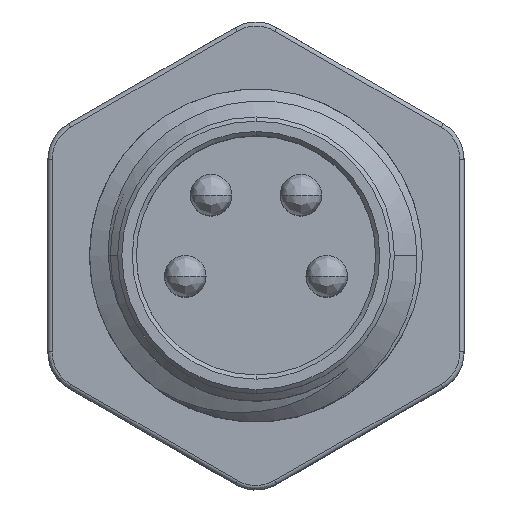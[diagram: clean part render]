
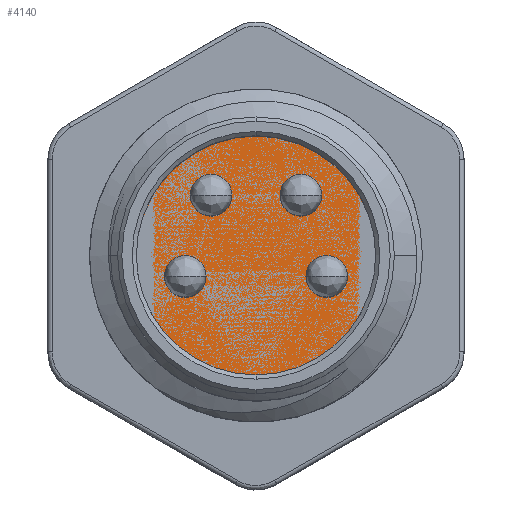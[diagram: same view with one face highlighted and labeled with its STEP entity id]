
A CAD part, top view. The second image highlights one B-rep face of the part: STEP entity #4140.
In plain terms, the highlighted planar face has unit normal (0, 0, 1).
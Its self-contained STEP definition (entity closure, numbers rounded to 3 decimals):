
#81 = CARTESIAN_POINT ( 'NONE',  ( 1.08, 1.45, 1.3 ) ) ;
#131 = DIRECTION ( 'NONE',  ( 0., 0., -1. ) ) ;
#141 = DIRECTION ( 'NONE',  ( -1., 0., 0. ) ) ;
#260 = CIRCLE ( 'NONE', #8844, 0.5 ) ;
#287 = DIRECTION ( 'NONE',  ( 0., 0., 1. ) ) ;
#402 = VERTEX_POINT ( 'NONE', #7624 ) ;
#701 = CIRCLE ( 'NONE', #11229, 2.875 ) ;
#952 = DIRECTION ( 'NONE',  ( -1., 0., 0. ) ) ;
#1028 = EDGE_CURVE ( 'NONE', #6450, #5769, #7962, .T. ) ;
#1204 = CARTESIAN_POINT ( 'NONE',  ( 2.875, 0., 1.3 ) ) ;
#1257 = VERTEX_POINT ( 'NONE', #6549 ) ;
#1284 = DIRECTION ( 'NONE',  ( -1., 0., 0. ) ) ;
#1490 = ORIENTED_EDGE ( 'NONE', *, *, #4811, .F. ) ;
#1644 = CARTESIAN_POINT ( 'NONE',  ( 1.7, -0.5, 1.3 ) ) ;
#1736 = DIRECTION ( 'NONE',  ( 0., 0., -1. ) ) ;
#1842 = FACE_BOUND ( 'NONE', #3734, .T. ) ;
#1990 = CARTESIAN_POINT ( 'NONE',  ( 1.08, 0.95, 1.3 ) ) ;
#2051 = VERTEX_POINT ( 'NONE', #3576 ) ;
#2088 = ORIENTED_EDGE ( 'NONE', *, *, #5567, .F. ) ;
#2205 = DIRECTION ( 'NONE',  ( 0., 0., -1. ) ) ;
#2564 = ORIENTED_EDGE ( 'NONE', *, *, #5073, .F. ) ;
#2594 = CARTESIAN_POINT ( 'NONE',  ( -1.7, 0., 1.3 ) ) ;
#2643 = VERTEX_POINT ( 'NONE', #3598 ) ;
#2678 = DIRECTION ( 'NONE',  ( -1., 0., 0. ) ) ;
#2758 = VERTEX_POINT ( 'NONE', #1204 ) ;
#2804 = DIRECTION ( 'NONE',  ( -1., 0., 0. ) ) ;
#2997 = CIRCLE ( 'NONE', #5763, 0.5 ) ;
#3576 = CARTESIAN_POINT ( 'NONE',  ( -1.08, 0.95, 1.3 ) ) ;
#3598 = CARTESIAN_POINT ( 'NONE',  ( -2.875, 0., 1.3 ) ) ;
#3734 = EDGE_LOOP ( 'NONE', ( #4380, #6619 ) ) ;
#3772 = VERTEX_POINT ( 'NONE', #4981 ) ;
#3777 = DIRECTION ( 'NONE',  ( -1., 0., 0. ) ) ;
#3804 = EDGE_CURVE ( 'NONE', #2758, #2643, #4048, .T. ) ;
#3921 = CIRCLE ( 'NONE', #10660, 0.5 ) ;
#4032 = EDGE_CURVE ( 'NONE', #3772, #2051, #3921, .T. ) ;
#4037 = FACE_OUTER_BOUND ( 'NONE', #4109, .T. ) ;
#4048 = CIRCLE ( 'NONE', #7363, 2.875 ) ;
#4109 = EDGE_LOOP ( 'NONE', ( #7110, #4162 ) ) ;
#4140 = ADVANCED_FACE ( 'NONE', ( #8854, #1842, #6786, #8706, #4037 ), #6561, .F. ) ;
#4162 = ORIENTED_EDGE ( 'NONE', *, *, #10133, .F. ) ;
#4380 = ORIENTED_EDGE ( 'NONE', *, *, #4637, .F. ) ;
#4431 = AXIS2_PLACEMENT_3D ( 'NONE', #7348, #2205, #1284 ) ;
#4637 = EDGE_CURVE ( 'NONE', #6341, #1257, #6917, .T. ) ;
#4656 = CARTESIAN_POINT ( 'NONE',  ( 1.08, 1.45, 1.3 ) ) ;
#4811 = EDGE_CURVE ( 'NONE', #5769, #6450, #10072, .T. ) ;
#4946 = DIRECTION ( 'NONE',  ( -1., 0., 0. ) ) ;
#4981 = CARTESIAN_POINT ( 'NONE',  ( -1.08, 1.95, 1.3 ) ) ;
#5073 = EDGE_CURVE ( 'NONE', #402, #8939, #9989, .T. ) ;
#5329 = AXIS2_PLACEMENT_3D ( 'NONE', #6246, #5406, #141 ) ;
#5406 = DIRECTION ( 'NONE',  ( 0., 0., 1. ) ) ;
#5506 = EDGE_LOOP ( 'NONE', ( #1490, #10391 ) ) ;
#5567 = EDGE_CURVE ( 'NONE', #2051, #3772, #11181, .T. ) ;
#5622 = DIRECTION ( 'NONE',  ( -1., 0., 0. ) ) ;
#5763 = AXIS2_PLACEMENT_3D ( 'NONE', #10475, #11289, #952 ) ;
#5769 = VERTEX_POINT ( 'NONE', #1990 ) ;
#6182 = EDGE_CURVE ( 'NONE', #8939, #402, #2997, .T. ) ;
#6246 = CARTESIAN_POINT ( 'NONE',  ( -1.08, 1.45, 1.3 ) ) ;
#6341 = VERTEX_POINT ( 'NONE', #9042 ) ;
#6450 = VERTEX_POINT ( 'NONE', #6696 ) ;
#6506 = EDGE_CURVE ( 'NONE', #1257, #6341, #260, .T. ) ;
#6549 = CARTESIAN_POINT ( 'NONE',  ( 1.7, 0., 1.3 ) ) ;
#6561 = PLANE ( 'NONE',  #4431 ) ;
#6619 = ORIENTED_EDGE ( 'NONE', *, *, #6506, .F. ) ;
#6696 = CARTESIAN_POINT ( 'NONE',  ( 1.08, 1.95, 1.3 ) ) ;
#6777 = AXIS2_PLACEMENT_3D ( 'NONE', #1644, #9424, #7741 ) ;
#6786 = FACE_BOUND ( 'NONE', #8547, .T. ) ;
#6917 = CIRCLE ( 'NONE', #6777, 0.5 ) ;
#7005 = CARTESIAN_POINT ( 'NONE',  ( 0., 0., 1.3 ) ) ;
#7069 = ORIENTED_EDGE ( 'NONE', *, *, #6182, .F. ) ;
#7110 = ORIENTED_EDGE ( 'NONE', *, *, #3804, .F. ) ;
#7348 = CARTESIAN_POINT ( 'NONE',  ( 0., 0., 1.3 ) ) ;
#7363 = AXIS2_PLACEMENT_3D ( 'NONE', #7005, #1736, #7729 ) ;
#7590 = EDGE_LOOP ( 'NONE', ( #2564, #7069 ) ) ;
#7624 = CARTESIAN_POINT ( 'NONE',  ( -1.7, -1., 1.3 ) ) ;
#7719 = CARTESIAN_POINT ( 'NONE',  ( 1.7, -0.5, 1.3 ) ) ;
#7729 = DIRECTION ( 'NONE',  ( -1., 0., 0. ) ) ;
#7741 = DIRECTION ( 'NONE',  ( -1., 0., 0. ) ) ;
#7953 = AXIS2_PLACEMENT_3D ( 'NONE', #8490, #10149, #4946 ) ;
#7962 = CIRCLE ( 'NONE', #9112, 0.5 ) ;
#7976 = ORIENTED_EDGE ( 'NONE', *, *, #4032, .F. ) ;
#8021 = DIRECTION ( 'NONE',  ( 0., 0., 1. ) ) ;
#8490 = CARTESIAN_POINT ( 'NONE',  ( -1.7, -0.5, 1.3 ) ) ;
#8547 = EDGE_LOOP ( 'NONE', ( #2088, #7976 ) ) ;
#8706 = FACE_BOUND ( 'NONE', #7590, .T. ) ;
#8844 = AXIS2_PLACEMENT_3D ( 'NONE', #7719, #9395, #11168 ) ;
#8854 = FACE_BOUND ( 'NONE', #5506, .T. ) ;
#8939 = VERTEX_POINT ( 'NONE', #2594 ) ;
#9042 = CARTESIAN_POINT ( 'NONE',  ( 1.7, -1., 1.3 ) ) ;
#9112 = AXIS2_PLACEMENT_3D ( 'NONE', #81, #8021, #2678 ) ;
#9395 = DIRECTION ( 'NONE',  ( 0., 0., 1. ) ) ;
#9424 = DIRECTION ( 'NONE',  ( 0., 0., 1. ) ) ;
#9742 = CARTESIAN_POINT ( 'NONE',  ( 0., 0., 1.3 ) ) ;
#9989 = CIRCLE ( 'NONE', #7953, 0.5 ) ;
#10072 = CIRCLE ( 'NONE', #11271, 0.5 ) ;
#10133 = EDGE_CURVE ( 'NONE', #2643, #2758, #701, .T. ) ;
#10149 = DIRECTION ( 'NONE',  ( 0., 0., 1. ) ) ;
#10391 = ORIENTED_EDGE ( 'NONE', *, *, #1028, .F. ) ;
#10475 = CARTESIAN_POINT ( 'NONE',  ( -1.7, -0.5, 1.3 ) ) ;
#10660 = AXIS2_PLACEMENT_3D ( 'NONE', #10841, #10870, #5622 ) ;
#10841 = CARTESIAN_POINT ( 'NONE',  ( -1.08, 1.45, 1.3 ) ) ;
#10870 = DIRECTION ( 'NONE',  ( 0., 0., 1. ) ) ;
#11168 = DIRECTION ( 'NONE',  ( -1., 0., 0. ) ) ;
#11181 = CIRCLE ( 'NONE', #5329, 0.5 ) ;
#11229 = AXIS2_PLACEMENT_3D ( 'NONE', #9742, #131, #3777 ) ;
#11271 = AXIS2_PLACEMENT_3D ( 'NONE', #4656, #287, #2804 ) ;
#11289 = DIRECTION ( 'NONE',  ( 0., 0., 1. ) ) ;
